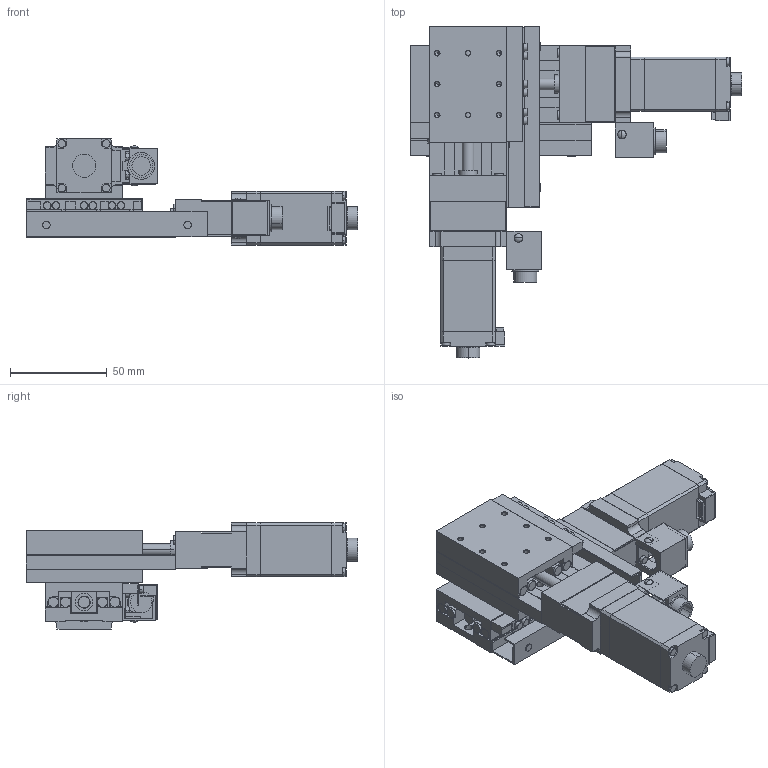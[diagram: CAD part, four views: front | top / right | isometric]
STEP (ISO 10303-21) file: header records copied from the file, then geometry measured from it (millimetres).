
FILE_DESCRIPTION(('STEP AP203'),'1');
FILE_NAME('C:/3D-Trans/3D_PMG430M-R□-D+241108.step','2024-11-08T02:31:29',(' '),(' '),'Spatial InterOp 3D',' ',' ');
FILE_SCHEMA(('CONFIG_CONTROL_DESIGN'));
Length unit declared in the file: millimetre
Products named in the file (13): 1; 2; 3; 4; 5; 6; 7; 8; 9; 10; 11; 12; 13
Bounding box: 171.5 x 171.5 x 55 mm (x, y, z)
Volume: 245294.9 mm3; surface area: 110975.6 mm2
Topology: 13 solids, 15 shells, 1292 faces, 3292 edges, 2092 vertices
Faces by surface type: plane 778, cylinder 402, cone 104, sphere 8
Entity records: 39250 total; most frequent: DIRECTION 6872, CARTESIAN_POINT 6641, ORIENTED_EDGE 6488, EDGE_CURVE 3244, AXIS2_PLACEMENT_3D 2323, LINE 2226, VECTOR 2226, VERTEX_POINT 2092
